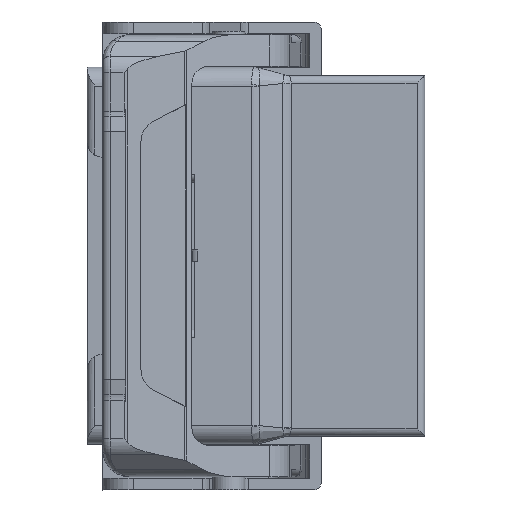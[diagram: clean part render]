
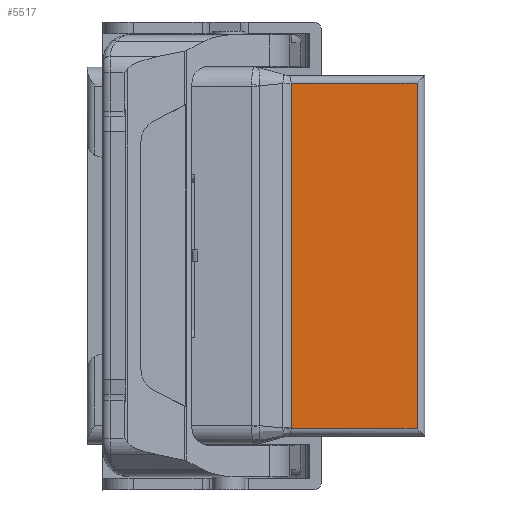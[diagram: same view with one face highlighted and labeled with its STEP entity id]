
A CAD part, top view. The second image highlights one B-rep face of the part: STEP entity #5517.
In plain terms, the highlighted planar face has unit normal (0, 0, 1).
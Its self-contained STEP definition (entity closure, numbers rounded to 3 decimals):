
#5481=AXIS2_PLACEMENT_3D('Plane Axis2P3D',#5478,#5479,#5480) ;
#5176=CARTESIAN_POINT('Vertex',(4.583,41.701,5.15)) ;
#5180=CARTESIAN_POINT('Control Point',(4.583,41.75,5.15)) ;
#5181=CARTESIAN_POINT('Control Point',(4.583,41.74,5.15)) ;
#5182=CARTESIAN_POINT('Control Point',(4.583,41.73,5.15)) ;
#5183=CARTESIAN_POINT('Control Point',(4.583,41.72,5.15)) ;
#5184=CARTESIAN_POINT('Control Point',(4.583,41.711,5.15)) ;
#5185=CARTESIAN_POINT('Control Point',(4.583,41.701,5.15)) ;
#5186=CARTESIAN_POINT('Vertex',(4.583,41.75,5.15)) ;
#5463=CARTESIAN_POINT('Vertex',(4.583,-3.201,5.15)) ;
#5466=CARTESIAN_POINT('Line Origine',(4.583,19.225,5.15)) ;
#5478=CARTESIAN_POINT('Axis2P3D Location',(4.,-3.25,5.15)) ;
#5483=CARTESIAN_POINT('Line Origine',(21.,19.25,5.15)) ;
#5487=CARTESIAN_POINT('Vertex',(21.,-3.25,5.15)) ;
#5489=CARTESIAN_POINT('Vertex',(21.,41.75,5.15)) ;
#5492=CARTESIAN_POINT('Line Origine',(12.791,41.75,5.15)) ;
#5497=CARTESIAN_POINT('Line Origine',(4.583,-3.225,5.15)) ;
#5501=CARTESIAN_POINT('Vertex',(4.583,-3.25,5.15)) ;
#5504=CARTESIAN_POINT('Line Origine',(12.791,-3.25,5.15)) ;
#5467=DIRECTION('Vector Direction',(0.,1.,0.)) ;
#5479=DIRECTION('Axis2P3D Direction',(0.,0.,-1.)) ;
#5480=DIRECTION('Axis2P3D XDirection',(0.,1.,0.)) ;
#5484=DIRECTION('Vector Direction',(0.,1.,0.)) ;
#5493=DIRECTION('Vector Direction',(1.,0.,0.)) ;
#5498=DIRECTION('Vector Direction',(0.,-1.,0.)) ;
#5505=DIRECTION('Vector Direction',(1.,0.,0.)) ;
#5468=VECTOR('Line Direction',#5467,1.) ;
#5485=VECTOR('Line Direction',#5484,1.) ;
#5494=VECTOR('Line Direction',#5493,1.) ;
#5499=VECTOR('Line Direction',#5498,1.) ;
#5506=VECTOR('Line Direction',#5505,1.) ;
#5510=ORIENTED_EDGE('',*,*,#5491,.T.) ;
#5511=ORIENTED_EDGE('',*,*,#5496,.F.) ;
#5512=ORIENTED_EDGE('',*,*,#5188,.T.) ;
#5513=ORIENTED_EDGE('',*,*,#5470,.T.) ;
#5514=ORIENTED_EDGE('',*,*,#5503,.T.) ;
#5515=ORIENTED_EDGE('',*,*,#5508,.T.) ;
#5517=ADVANCED_FACE('HOUSING',(#5516),#5482,.F.) ;
#5179=B_SPLINE_CURVE_WITH_KNOTS('',5,(#5180,#5181,#5182,#5183,#5184,#5185),.UNSPECIFIED.,.F.,.U.,(6,6),(7.76,7.795),.UNSPECIFIED.) ;
#5188=EDGE_CURVE('',#5187,#5177,#5179,.T.) ;
#5470=EDGE_CURVE('',#5177,#5464,#5469,.F.) ;
#5491=EDGE_CURVE('',#5488,#5490,#5486,.T.) ;
#5496=EDGE_CURVE('',#5187,#5490,#5495,.T.) ;
#5503=EDGE_CURVE('',#5464,#5502,#5500,.T.) ;
#5508=EDGE_CURVE('',#5502,#5488,#5507,.T.) ;
#5509=EDGE_LOOP('',(#5510,#5511,#5512,#5513,#5514,#5515)) ;
#5516=FACE_OUTER_BOUND('',#5509,.T.) ;
#5469=LINE('Line',#5466,#5468) ;
#5486=LINE('Line',#5483,#5485) ;
#5495=LINE('Line',#5492,#5494) ;
#5500=LINE('Line',#5497,#5499) ;
#5507=LINE('Line',#5504,#5506) ;
#5482=PLANE('',#5481) ;
#5177=VERTEX_POINT('',#5176) ;
#5187=VERTEX_POINT('',#5186) ;
#5464=VERTEX_POINT('',#5463) ;
#5488=VERTEX_POINT('',#5487) ;
#5490=VERTEX_POINT('',#5489) ;
#5502=VERTEX_POINT('',#5501) ;
